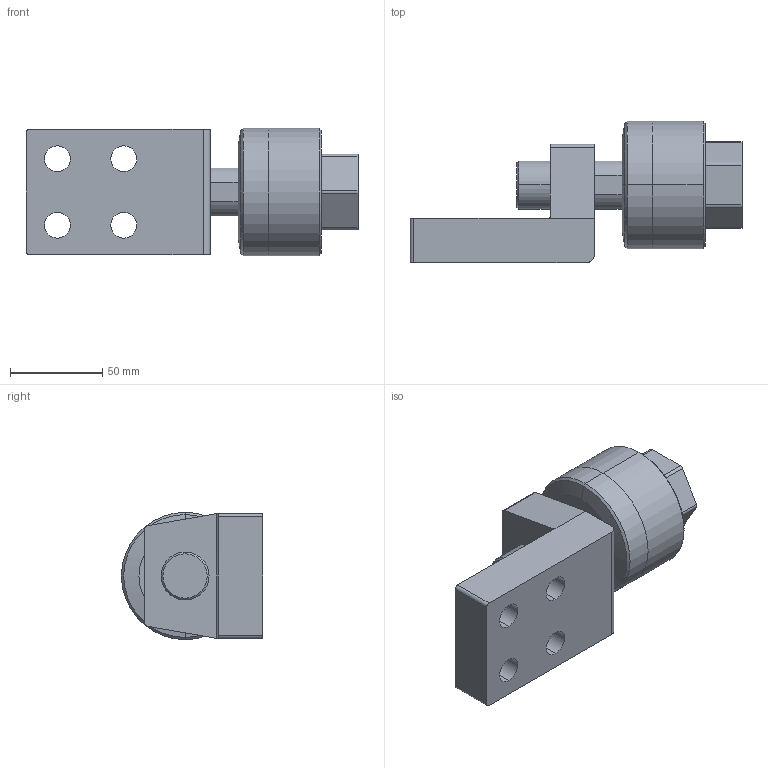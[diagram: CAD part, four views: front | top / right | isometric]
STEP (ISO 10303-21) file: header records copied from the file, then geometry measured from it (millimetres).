
FILE_DESCRIPTION (( 'STEP AP203' ), '1' );
FILE_NAME ('FCM26A-1.5-L.STEP', '2016-04-14T02:00:33', ( '' ), ( '' ), 'SwSTEP 2.0', 'SolidWorks 2014', '' );
FILE_SCHEMA (( 'CONFIG_CONTROL_DESIGN' ));
Length unit declared in the file: millimetre
Products named in the file (3): FCM26A-1.5-L; FCM26A-1.5; FCM26A-L
Assembly tree (2 placements, depth 2):
  FCM26A-1.5-L
    FCM26A-1.5
    FCM26A-L
Bounding box: 180 x 76.5 x 69 mm (x, y, z)
Volume: 409648 mm3; surface area: 57644.2 mm2
Topology: 2 solids, 2 shells, 71 faces, 174 edges, 110 vertices
Faces by surface type: cylinder 34, plane 29, cone 8
Entity records: 2423 total; most frequent: DIRECTION 398, CARTESIAN_POINT 366, ORIENTED_EDGE 348, EDGE_CURVE 174, AXIS2_PLACEMENT_3D 150, VERTEX_POINT 110, VECTOR 98, LINE 98
